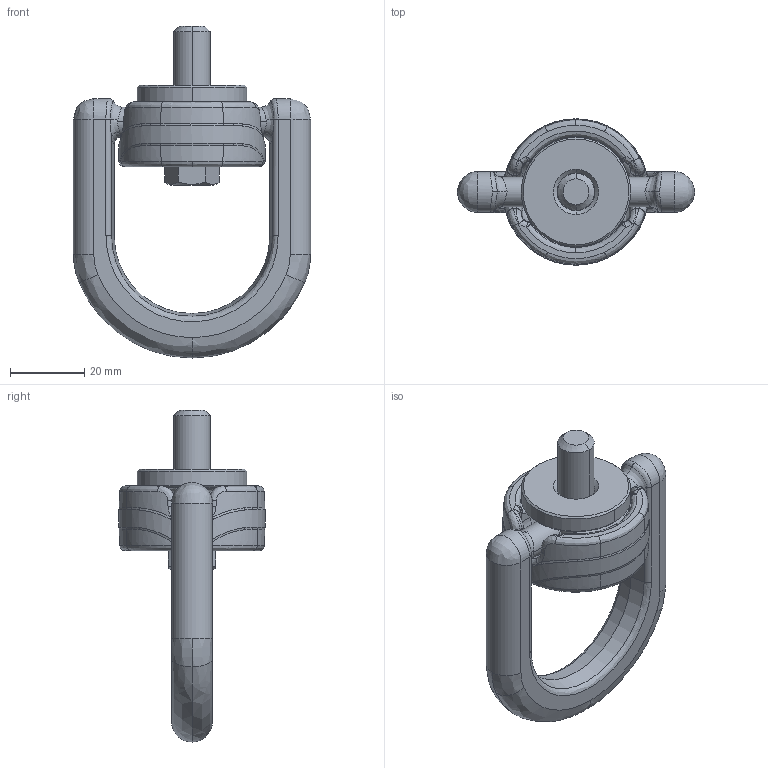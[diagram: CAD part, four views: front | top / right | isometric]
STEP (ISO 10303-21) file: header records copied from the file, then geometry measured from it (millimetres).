
FILE_DESCRIPTION (( 'STEP AP203' ), '1' );
FILE_NAME ('Z101710.step', '2016-04-04T11:06:55', ( '' ), ( '' ), 'SwSTEP 2.0', 'SolidWorks 2008', '' );
FILE_SCHEMA (( 'CONFIG_CONTROL_DESIGN' ));
Length unit declared in the file: millimetre
Products named in the file (6): Z7681210; Z768657; Z101710; Z776041; Z768071; Z768026_SMITT
Assembly tree (5 placements, depth 2):
  Z101710
    Z776041
    Z7681210
    Z768071
    Z768026_SMITT
    Z768657
Bounding box: 64 x 39.5 x 89.6 mm (x, y, z)
Volume: 39644.7 mm3; surface area: 17095.8 mm2
Topology: 5 solids, 5 shells, 391 faces, 930 edges, 552 vertices
Faces by surface type: bspline 242, cylinder 72, plane 51, cone 22, torus 4
Entity records: 28569 total; most frequent: CARTESIAN_POINT 21026, ORIENTED_EDGE 1852, EDGE_CURVE 926, DIRECTION 893, VERTEX_POINT 552, B_SPLINE_CURVE_WITH_KNOTS 439, EDGE_LOOP 402, FACE_OUTER_BOUND 391
